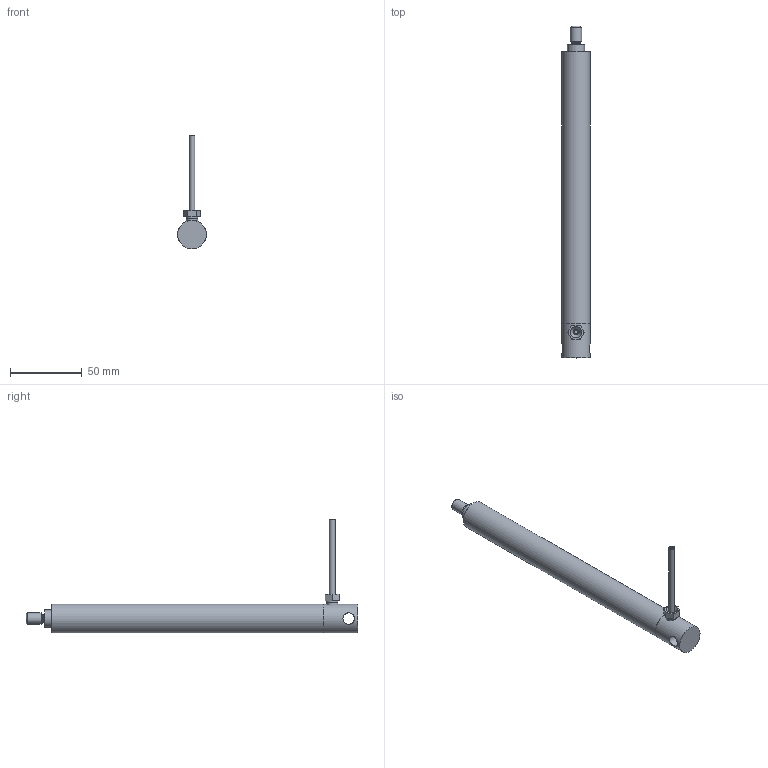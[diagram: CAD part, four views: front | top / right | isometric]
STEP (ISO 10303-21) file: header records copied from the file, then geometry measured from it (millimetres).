
FILE_DESCRIPTION(/* description */ ('Unknown'),/* implementation_level */ '2;1');
FILE_NAME(/* name */ '109.50071 Zylinder CE 1815_eingefahren',/* time_stamp */ '2018-05-18T17:20:25+02:00',/* author */ ('Unknown'),/* organization */ ('Unknown'),/* preprocessor_version */ 'ST-DEVELOPER v16.7',/* originating_system */ 'DEX',/* authorisation */ $);
FILE_SCHEMA (('AUTOMOTIVE_DESIGN {1 0 10303 214 3 1 1}'));
Length unit declared in the file: millimetre
Products named in the file (9): 109.50071; 121.50001; 142.00021; 125.00021; 115.00008_oa_0; 125.00064; 120.00021; 122.00012; 113.00002_70mm
Assembly tree (8 placements, depth 2):
  109.50071
    121.50001
    142.00021
    125.00021
    115.00008_oa_0
    125.00064
    120.00021
    122.00012
    113.00002_70mm
Bounding box: 20 x 232 x 79.5 mm (x, y, z)
Volume: 42569.7 mm3; surface area: 36936 mm2
Topology: 7 solids, 7 shells, 88 faces, 184 edges, 116 vertices
Faces by surface type: plane 29, cylinder 28, cone 24, torus 6, sphere 1
Full cylindrical faces by diameter (mm): 2.2 x1, 3 x1, 3.5 x1, 4 x1, 4.1 x1, 4.2 x1, 6 x1, 6.917 x2, 7.763 x2, 8 x5, 8.1 x3, 12 x2, 14.4 x1, 17.9 x2, 18 x2, 20 x2
Entity records: 2689 total; most frequent: CARTESIAN_POINT 421, DIRECTION 362, ORIENTED_EDGE 220, AXIS2_PLACEMENT_3D 172, FACE_BOUND 164, EDGE_LOOP 161, EDGE_CURVE 110, VERTEX_POINT 100
